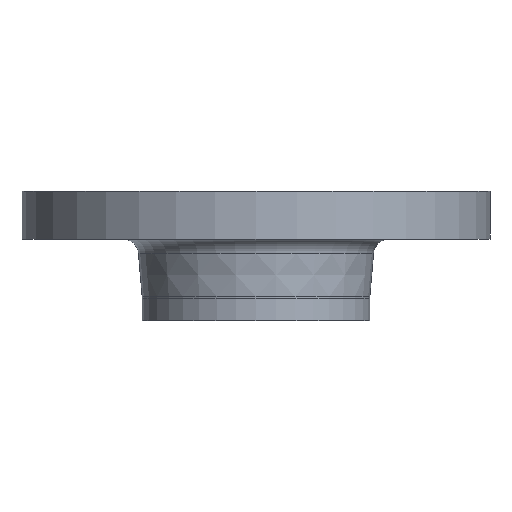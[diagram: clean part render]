
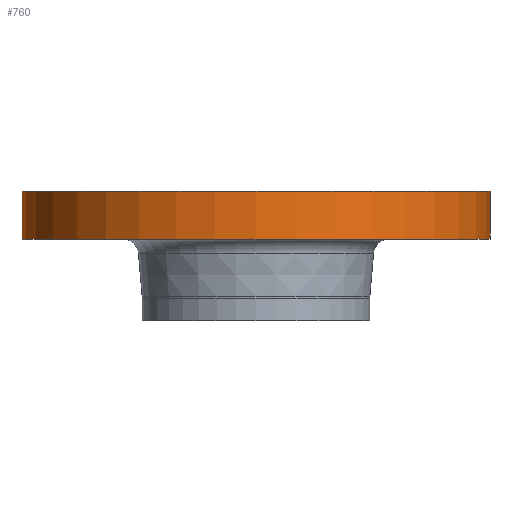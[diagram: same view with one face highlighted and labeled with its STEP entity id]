
A CAD part, front view. The second image highlights one B-rep face of the part: STEP entity #760.
In plain terms, the highlighted cylindrical face has radius 117.5 mm (diameter 235 mm), a partial arc.
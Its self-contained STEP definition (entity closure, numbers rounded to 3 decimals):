
#16 = CIRCLE ( 'NONE', #17, 117.5 ) ;
#17 = AXIS2_PLACEMENT_3D ( 'NONE', #631, #632, #633 ) ;
#24 = EDGE_CURVE ( 'NONE', #883, #529, #16, .T. ) ;
#72 = CARTESIAN_POINT ( 'NONE',  ( 117.5, 0., 0. ) ) ;
#104 = CARTESIAN_POINT ( 'NONE',  ( 117.5, 0., -24. ) ) ;
#114 = CARTESIAN_POINT ( 'NONE',  ( -117.5, 0., 0. ) ) ;
#188 = DIRECTION ( 'NONE',  ( 1., 0., 0. ) ) ;
#190 = DIRECTION ( 'NONE',  ( 0., 0., 1. ) ) ;
#191 = CARTESIAN_POINT ( 'NONE',  ( 0., 0., 0. ) ) ;
#205 = VECTOR ( 'NONE', #725, 1000. ) ;
#207 = DIRECTION ( 'NONE',  ( 0., 0., 1. ) ) ;
#209 = CARTESIAN_POINT ( 'NONE',  ( 117.5, 0., -75. ) ) ;
#210 = LINE ( 'NONE', #209, #524 ) ;
#256 = DIRECTION ( 'NONE',  ( 1., 0., 0. ) ) ;
#257 = DIRECTION ( 'NONE',  ( 0., 0., 1. ) ) ;
#258 = CARTESIAN_POINT ( 'NONE',  ( 0., 0., -75. ) ) ;
#259 = CYLINDRICAL_SURFACE ( 'NONE', #823, 117.5 ) ;
#260 = FACE_OUTER_BOUND ( 'NONE', #857, .T. ) ;
#378 = CARTESIAN_POINT ( 'NONE',  ( -117.5, 0., -24. ) ) ;
#418 = EDGE_CURVE ( 'NONE', #529, #871, #722, .T. ) ;
#524 = VECTOR ( 'NONE', #207, 1000. ) ;
#529 = VERTEX_POINT ( 'NONE', #378 ) ;
#582 = AXIS2_PLACEMENT_3D ( 'NONE', #191, #190, #188 ) ;
#631 = CARTESIAN_POINT ( 'NONE',  ( 0., 0., -24. ) ) ;
#632 = DIRECTION ( 'NONE',  ( 0., 0., -1. ) ) ;
#633 = DIRECTION ( 'NONE',  ( -1., 0., 0. ) ) ;
#721 = CARTESIAN_POINT ( 'NONE',  ( -117.5, 0., -75. ) ) ;
#722 = LINE ( 'NONE', #721, #205 ) ;
#725 = DIRECTION ( 'NONE',  ( 0., 0., 1. ) ) ;
#760 = ADVANCED_FACE ( 'NONE', ( #260 ), #259, .T. ) ;
#795 = EDGE_CURVE ( 'NONE', #883, #1017, #210, .T. ) ;
#799 = CIRCLE ( 'NONE', #582, 117.5 ) ;
#803 = EDGE_CURVE ( 'NONE', #871, #1017, #799, .T. ) ;
#823 = AXIS2_PLACEMENT_3D ( 'NONE', #258, #257, #256 ) ;
#857 = EDGE_LOOP ( 'NONE', ( #1034, #1035, #1037, #1038 ) ) ;
#871 = VERTEX_POINT ( 'NONE', #114 ) ;
#883 = VERTEX_POINT ( 'NONE', #104 ) ;
#1017 = VERTEX_POINT ( 'NONE', #72 ) ;
#1034 = ORIENTED_EDGE ( 'NONE', *, *, #418, .F. ) ;
#1035 = ORIENTED_EDGE ( 'NONE', *, *, #24, .F. ) ;
#1037 = ORIENTED_EDGE ( 'NONE', *, *, #795, .T. ) ;
#1038 = ORIENTED_EDGE ( 'NONE', *, *, #803, .F. ) ;
